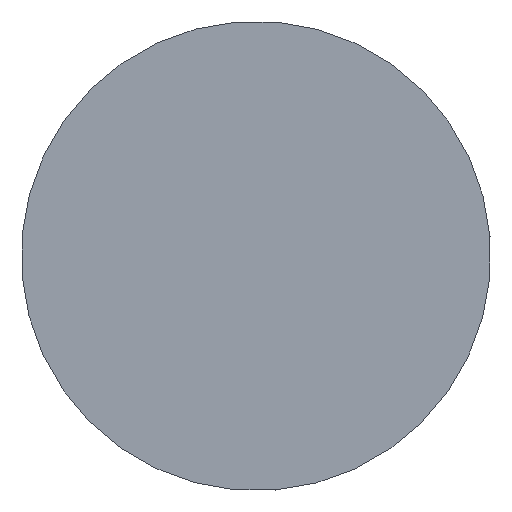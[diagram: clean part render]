
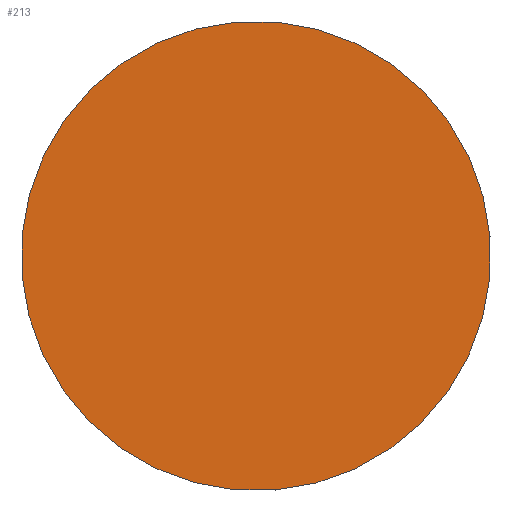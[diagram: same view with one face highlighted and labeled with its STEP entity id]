
A CAD part, left-side view. The second image highlights one B-rep face of the part: STEP entity #213.
In plain terms, the highlighted planar face has unit normal (-1, 0, 0).
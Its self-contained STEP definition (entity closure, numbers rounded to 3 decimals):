
#13 = CARTESIAN_POINT ( 'NONE',  ( -60., 3., 0. ) ) ;
#14 = EDGE_CURVE ( 'NONE', #116, #336, #282, .T. ) ;
#53 = CARTESIAN_POINT ( 'NONE',  ( -60., 0., 0. ) ) ;
#86 = DIRECTION ( 'NONE',  ( -1., 0., 0. ) ) ;
#110 = ORIENTED_EDGE ( 'NONE', *, *, #14, .F. ) ;
#111 = DIRECTION ( 'NONE',  ( 0., 0., -1. ) ) ;
#113 = DIRECTION ( 'NONE',  ( 1., 0., 0. ) ) ;
#116 = VERTEX_POINT ( 'NONE', #311 ) ;
#118 = AXIS2_PLACEMENT_3D ( 'NONE', #13, #86, #437 ) ;
#156 = AXIS2_PLACEMENT_3D ( 'NONE', #53, #451, #455 ) ;
#161 = ORIENTED_EDGE ( 'NONE', *, *, #180, .F. ) ;
#180 = EDGE_CURVE ( 'NONE', #336, #116, #322, .T. ) ;
#213 = ADVANCED_FACE ( 'NONE', ( #289 ), #415, .T. ) ;
#214 = EDGE_LOOP ( 'NONE', ( #110, #161 ) ) ;
#266 = CARTESIAN_POINT ( 'NONE',  ( -60., 0., 0. ) ) ;
#282 = CIRCLE ( 'NONE', #156, 3. ) ;
#289 = FACE_OUTER_BOUND ( 'NONE', #214, .T. ) ;
#311 = CARTESIAN_POINT ( 'NONE',  ( -60., 0., -3. ) ) ;
#322 = CIRCLE ( 'NONE', #416, 3. ) ;
#336 = VERTEX_POINT ( 'NONE', #430 ) ;
#415 = PLANE ( 'NONE',  #118 ) ;
#416 = AXIS2_PLACEMENT_3D ( 'NONE', #266, #113, #111 ) ;
#430 = CARTESIAN_POINT ( 'NONE',  ( -60., 0., 3. ) ) ;
#437 = DIRECTION ( 'NONE',  ( 0., 0., 1. ) ) ;
#451 = DIRECTION ( 'NONE',  ( 1., 0., 0. ) ) ;
#455 = DIRECTION ( 'NONE',  ( 0., 0., -1. ) ) ;
